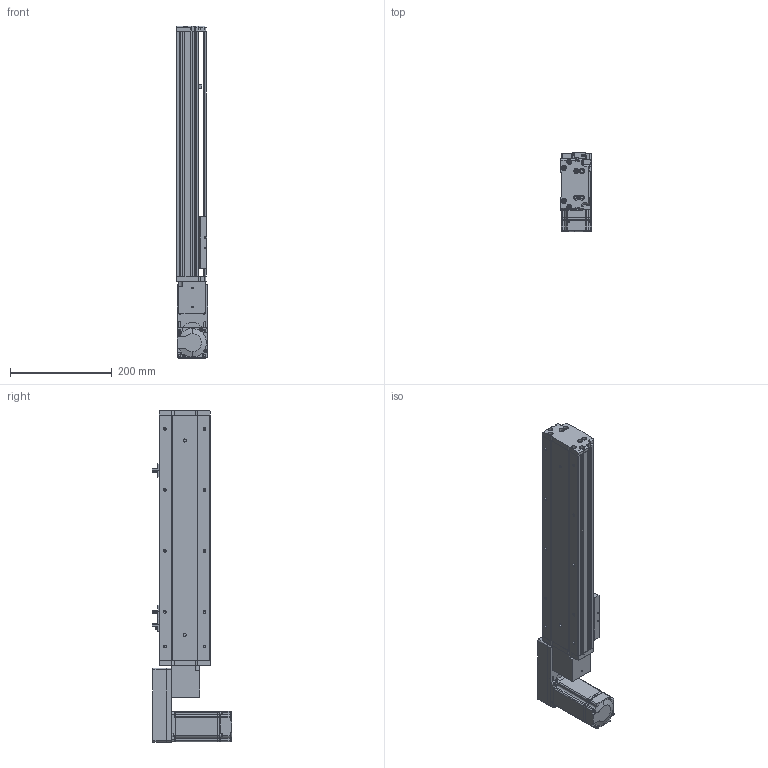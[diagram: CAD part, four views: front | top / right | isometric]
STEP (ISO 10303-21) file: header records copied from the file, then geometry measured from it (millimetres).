
FILE_DESCRIPTION (( 'STEP AP214' ), '1' );
FILE_NAME ('KSD100B-S300-MLB-CM.STEP', '2019-08-31T01:30:13', ( '微软用户' ), ( '微软中国' ), 'SwSTEP 2.0', 'SolidWorks 2014', '' );
FILE_SCHEMA (( 'AUTOMOTIVE_DESIGN' ));
Length unit declared in the file: millimetre
Products named in the file (12): MHMD042G1CA_2_03; 悵誘欶奻狟殏; 100宽马达安装板连板上下折丝杆同步带; U倰嫖萇EEㄜSX672; 覜茼え100遵圉猾敕; 100宽防尘板300行程-同步带; 100宽马达安装板同步带左; 100宽同步带安装板半封闭; 100宽马达安装板同步带; 100遵傷啣肮祭湍; 100宽底板半封闭同步带300行程; KSD100B-S300-MLB-CM
Assembly tree (13 placements, depth 2):
  KSD100B-S300-MLB-CM
    100宽底板半封闭同步带300行程
    100遵傷啣肮祭湍
    100宽马达安装板同步带
    100宽同步带安装板半封闭
    100宽马达安装板同步带左
    100宽防尘板300行程-同步带
    覜茼え100遵圉猾敕
    U倰嫖萇EEㄜSX672  x3
    100宽马达安装板连板上下折丝杆同步带
    悵誘欶奻狟殏
    MHMD042G1CA_2_03
Bounding box: 61 x 156.2 x 653 mm (x, y, z)
Volume: 1218346.9 mm3; surface area: 508760.6 mm2
Topology: 12 solids, 13 shells, 1563 faces, 4427 edges, 2880 vertices
Faces by surface type: cylinder 717, plane 708, cone 120, bspline 18
Entity records: 57488 total; most frequent: CARTESIAN_POINT 10128, DIRECTION 7834, ORIENTED_EDGE 7418, EDGE_CURVE 3781, AXIS2_PLACEMENT_3D 2810, VERTEX_POINT 2504, VECTOR 2214, LINE 2214
